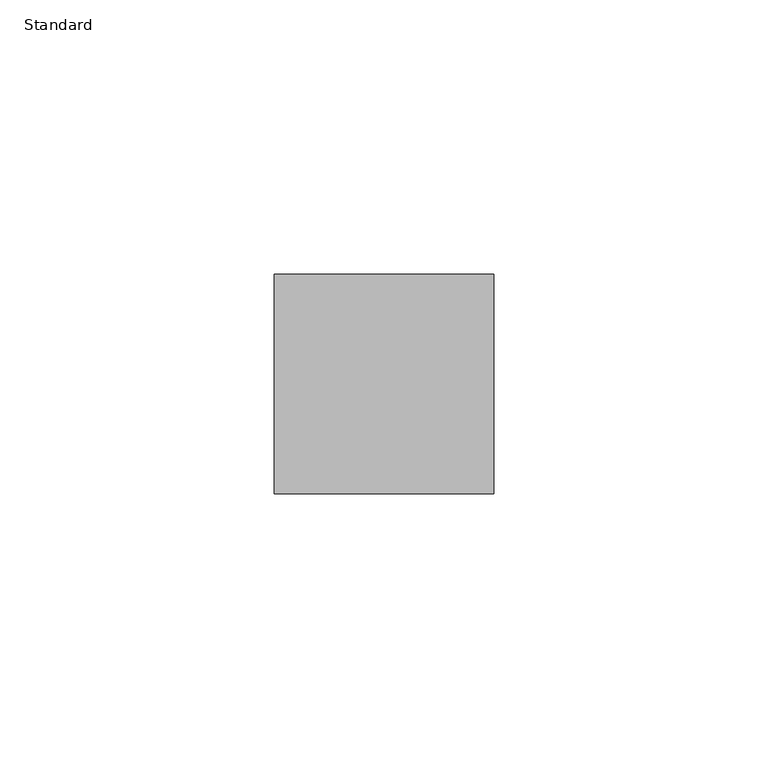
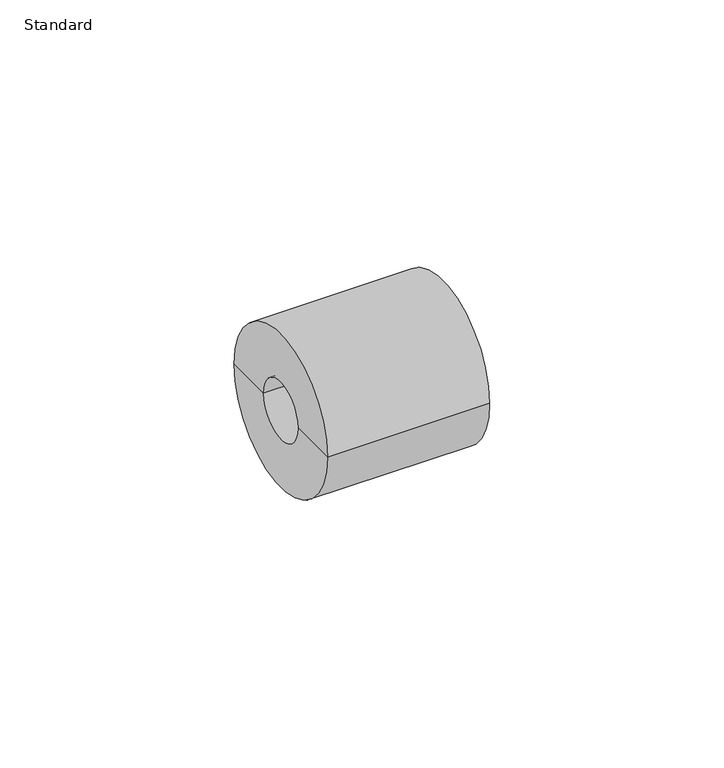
"""IFC4 building model written with IfcOpenShell, lengths in millimetres: pipe fitting geometry, Durapipe_PipeFitting_PVC_ReducingBush : Standard."""

from ifc_helpers import new_model, si_unit, frame, origin, place, context, project, spatial, polyline, circle_curve, source, transform, mapped, element, save
from ifc_brep_helpers import plane_surface, cylinder_surface, revolved_surface, advanced_brep


def standard_6835cc84(model_context):
    return source(origin(), model_context, "Body", "AdvancedBrep", [
        advanced_brep(
        [(-9.0, -7.5, 0.0), (-9.0, 7.5, 0.0), (-9.0, 20.0, 0.0), (-9.0, -20.0, 0.0), (0.0, -7.5, 0.0), (0.0, 7.5, 0.0), (0.0, -10.0, 0.0), (0.0, 10.0, 0.0), (31.0, -10.0, 0.0), (31.0, 10.0, 0.0), (31.0, -20.0, 0.0), (31.0, 20.0, 0.0)],
        [
            (0, 1, circle_curve(frame((-9.0, 0.0, 0.0), z_axis=(1.0, 0.0, 0.0), x_axis=(0.0, 1.0, 0.0)), 7.5)),
            (1, 2),
            (2, 3, circle_curve(frame((-9.0, 0.0, 0.0), z_axis=(-1.0, 0.0, 0.0), x_axis=(0.0, 1.0, 0.0)), 20.0)),
            (3, 0),
            (1, 0, circle_curve(frame((-9.0, 0.0, 0.0), z_axis=(1.0, 0.0, 0.0), x_axis=(0.0, 1.0, 0.0)), 7.5)),
            (3, 2, circle_curve(frame((-9.0, 0.0, 0.0), z_axis=(-1.0, 0.0, 0.0), x_axis=(0.0, 1.0, 0.0)), 20.0)),
            (4, 5, circle_curve(frame((0.0, 0.0, 0.0), z_axis=(1.0, 0.0, 0.0), x_axis=(0.0, 1.0, 0.0)), 7.5)),
            (5, 1),
            (0, 4),
            (5, 4, circle_curve(frame((0.0, 0.0, 0.0), z_axis=(1.0, 0.0, 0.0), x_axis=(0.0, 1.0, 0.0)), 7.5)),
            (6, 7, circle_curve(frame((0.0, 0.0, 0.0), z_axis=(1.0, 0.0, 0.0), x_axis=(0.0, 1.0, 0.0)), 10.0)),
            (7, 5),
            (4, 6),
            (7, 6, circle_curve(frame((0.0, 0.0, 0.0), z_axis=(1.0, 0.0, 0.0), x_axis=(0.0, 1.0, 0.0)), 10.0)),
            (8, 9, circle_curve(frame((31.0, 0.0, 0.0), z_axis=(1.0, 0.0, 0.0), x_axis=(0.0, 1.0, 0.0)), 10.0)),
            (9, 7),
            (6, 8),
            (9, 8, circle_curve(frame((31.0, 0.0, 0.0), z_axis=(1.0, 0.0, 0.0), x_axis=(0.0, 1.0, 0.0)), 10.0)),
            (10, 11, circle_curve(frame((31.0, 0.0, 0.0), z_axis=(1.0, 0.0, 0.0), x_axis=(0.0, 1.0, 0.0)), 20.0)),
            (11, 9),
            (8, 10),
            (11, 10, circle_curve(frame((31.0, 0.0, 0.0), z_axis=(1.0, 0.0, 0.0), x_axis=(0.0, 1.0, 0.0)), 20.0)),
            (2, 11),
            (10, 3),
        ],
        [
            plane_surface(frame((-9.0, 0.0, 0.0), z_axis=(-1.0, 0.0, 0.0), x_axis=(0.0, 1.0, 0.0))),
            revolved_surface(polyline([(-9.0, 7.5, 0.0), (0.0, 7.5, 0.0)]), (2017.0, 0.0, 0.0), (-1.0, 0.0, 0.0)),
            plane_surface(frame((0.0, 0.0, 0.0), z_axis=(1.0, 0.0, 0.0), x_axis=(0.0, 1.0, 0.0))),
            revolved_surface(polyline([(0.0, 10.0, 0.0), (31.0, 10.0, 0.0)]), (2017.0, 0.0, 0.0), (-1.0, 0.0, 0.0)),
            plane_surface(frame((31.0, 0.0, 0.0), z_axis=(1.0, 0.0, 0.0), x_axis=(0.0, 1.0, 0.0))),
            cylinder_surface(frame((2017.0, 0.0, 0.0), z_axis=(-1.0, 0.0, 0.0), x_axis=(0.0, 1.0, 0.0)), 20.0),
        ],
        [
            (0, [[1, 2, 3, 4]]),
            (0, [[5, -4, 6, -2]]),
            (1, [[7, 8, -1, 9]]),
            (1, [[10, -9, -5, -8]]),
            (2, [[11, 12, -7, 13]]),
            (2, [[14, -13, -10, -12]]),
            (3, [[15, 16, -11, 17]]),
            (3, [[18, -17, -14, -16]]),
            (4, [[19, 20, -15, 21]]),
            (4, [[22, -21, -18, -20]]),
            (5, [[-3, 23, -19, 24]]),
            (5, [[-6, -24, -22, -23]]),
        ],
    ),
    ])


if __name__ == "__main__":
    model = new_model("IFC4")
    model_context = context("Model", 3, world=origin())
    ifc_project = project(units=[si_unit("LENGTHUNIT", "METRE", prefix="MILLI")], contexts=[model_context])
    site = spatial("IfcSite", under=ifc_project)
    building = spatial("IfcBuilding", under=site)
    placement = place(None, origin())
    standard_shape = standard_6835cc84(model_context)
    element("IfcPipeFitting", 1, ObjectType="Durapipe_PipeFitting_PVC_ReducingBush : Standard", at=placement, inside=building, context=model_context, shape_type="MappedRepresentation", body=[
        mapped(standard_shape, transform((0.0, 0.0, 0.0), x_axis=(1.0, 0.0, 0.0), y_axis=(0.0, 1.0, 0.0), z_axis=(0.0, 0.0, 1.0))),
    ])
    save(model, "model.ifc")
